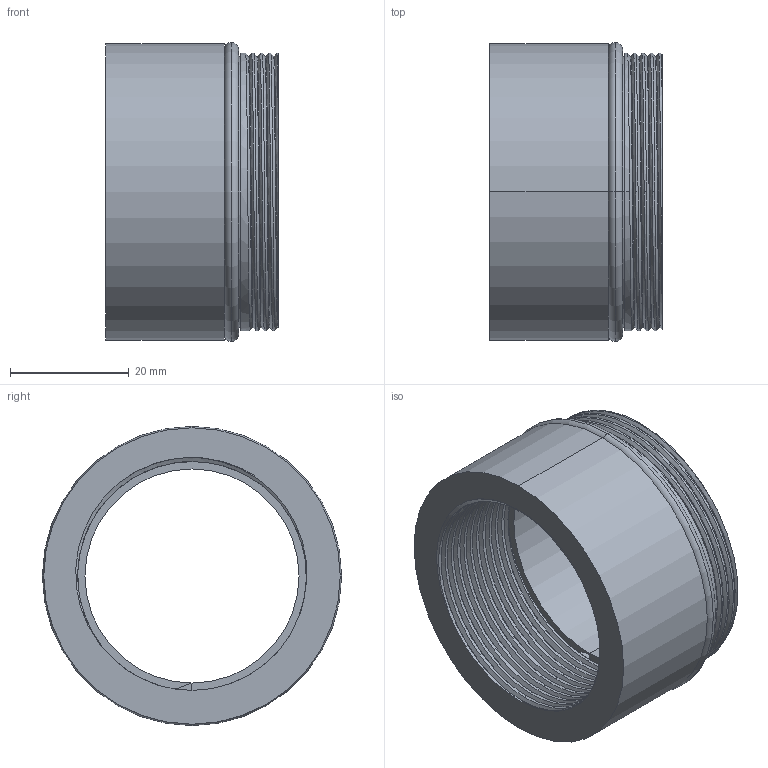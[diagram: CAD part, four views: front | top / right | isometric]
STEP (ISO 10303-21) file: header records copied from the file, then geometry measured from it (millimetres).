
FILE_DESCRIPTION (( 'STEP AP214' ), '1' );
FILE_NAME ('PG36-1.25.STEP', '2006-08-15T14:52:42', ( 'Mencom User' ), ( 'Mencom Corporation' ), 'SwSTEP 2.0', 'SolidWorks 2006104', '' );
FILE_SCHEMA (( 'AUTOMOTIVE_DESIGN' ));
Length unit declared in the file: inch
Products named in the file (1): PG36-1.25
Bounding box: 29.02 x 50.42 x 50.42 mm (x, y, z)
Volume: 22208.1 mm3; surface area: 12935 mm2
Topology: 2 solids, 2 shells, 60 faces, 159 edges, 105 vertices
Faces by surface type: cylinder 39, plane 8, bspline 7, torus 6
Entity records: 6693 total; most frequent: CARTESIAN_POINT 5330, ORIENTED_EDGE 318, DIRECTION 219, EDGE_CURVE 159, VERTEX_POINT 105, AXIS2_PLACEMENT_3D 87, EDGE_LOOP 66, FACE_OUTER_BOUND 60
